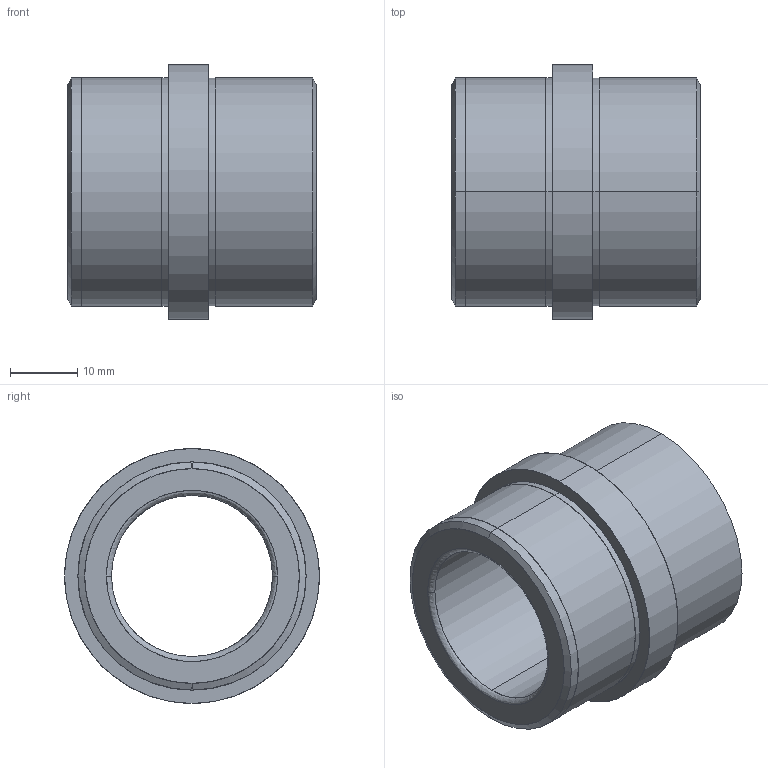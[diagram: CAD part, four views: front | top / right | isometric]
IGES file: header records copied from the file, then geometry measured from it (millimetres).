
Start section: SolidWorks IGES file using analytic representation for surfaces
Global section: file name: C:\Users\Dell\Desktop\deltakont\kontrol edilecekler\D22\Ø24\D22_24x21.IGS; native system: SolidWorks 2010; preprocessor: SolidWorks 2010; author: Dell; date: 111226.233320; units: millimetre
Bounding box: 37 x 38 x 38 mm (x, y, z)
Surface area: 8050.5 mm2 (no closed solid volume)
Topology: 0 solids, 0 shells, 29 faces, 928 edges, 928 vertices
Faces by surface type: revolution 18, bspline 11
